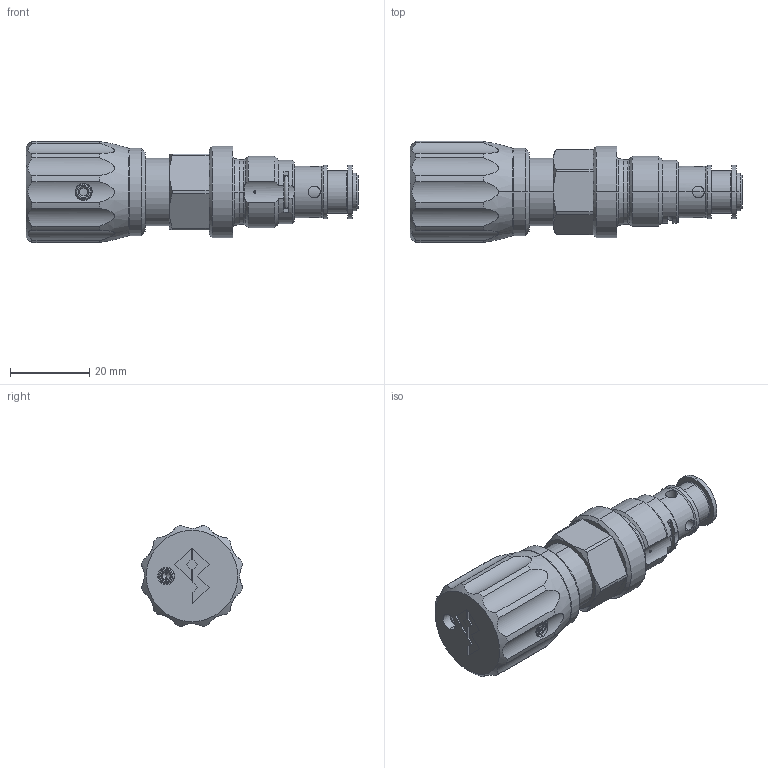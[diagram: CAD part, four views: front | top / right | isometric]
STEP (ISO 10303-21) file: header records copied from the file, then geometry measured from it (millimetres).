
FILE_DESCRIPTION (( 'STEP AP214' ), '1' );
FILE_NAME ('BSDPM18.STEP', '2021-08-17T11:27:12', ( '' ), ( '' ), 'SwSTEP 2.0', 'SolidWorks 2020', '' );
FILE_SCHEMA (( 'AUTOMOTIVE_DESIGN' ));
Length unit declared in the file: millimetre
Products named in the file (1): BSDPM18
Bounding box: 83.6 x 25.47 x 25.47 mm (x, y, z)
Volume: 25883.5 mm3; surface area: 6974.1 mm2
Topology: 1 solids, 1 shells, 251 faces, 605 edges, 373 vertices
Faces by surface type: cylinder 99, plane 95, cone 44, torus 13
Entity records: 11376 total; most frequent: CARTESIAN_POINT 2838, ORIENTED_EDGE 1206, DIRECTION 1190, EDGE_CURVE 603, AXIS2_PLACEMENT_3D 461, VERTEX_POINT 373, EDGE_LOOP 270, VECTOR 268
